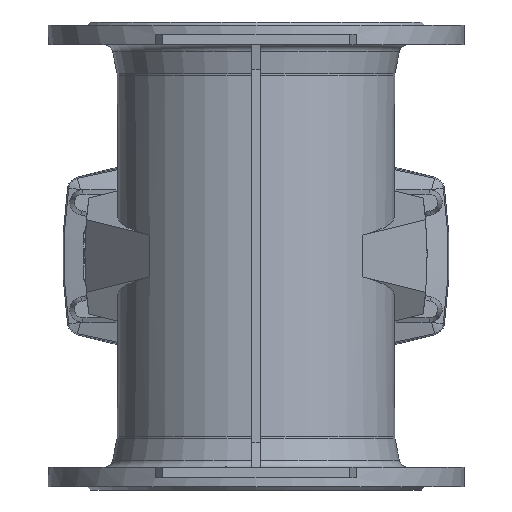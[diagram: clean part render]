
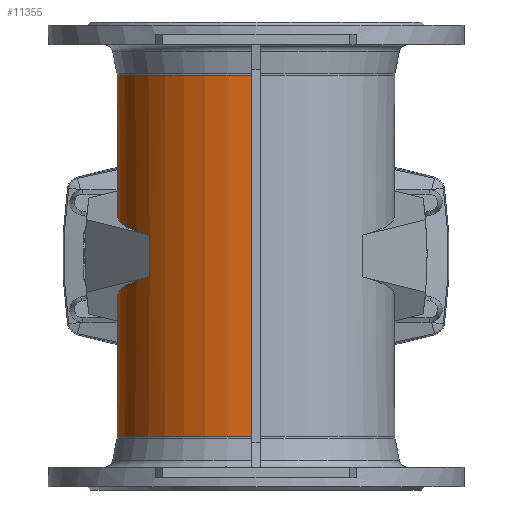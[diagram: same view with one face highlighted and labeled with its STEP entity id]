
A CAD part, front view. The second image highlights one B-rep face of the part: STEP entity #11355.
In plain terms, the highlighted cylindrical face has radius 133.5 mm (diameter 267 mm), a partial arc.
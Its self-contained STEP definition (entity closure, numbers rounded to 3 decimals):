
#959 =( BOUNDED_CURVE ( )  B_SPLINE_CURVE ( 3, ( #8183, #8159, #8158, #8185 ),
 .UNSPECIFIED., .F., .F. ) 
 B_SPLINE_CURVE_WITH_KNOTS ( ( 4, 4 ),
 ( 0.792, 3.027 ),
 .UNSPECIFIED. ) 
 CURVE ( )  GEOMETRIC_REPRESENTATION_ITEM ( )  RATIONAL_B_SPLINE_CURVE ( ( 1., 0.625, 0.625, 1. ) ) 
 REPRESENTATION_ITEM ( '' )  );
#1019 =( BOUNDED_CURVE ( )  B_SPLINE_CURVE ( 3, ( #8087, #8086, #8091, #8092 ),
 .UNSPECIFIED., .F., .F. ) 
 B_SPLINE_CURVE_WITH_KNOTS ( ( 4, 4 ),
 ( 0.792, 3.027 ),
 .UNSPECIFIED. ) 
 CURVE ( )  GEOMETRIC_REPRESENTATION_ITEM ( )  RATIONAL_B_SPLINE_CURVE ( ( 1., 0.625, 0.625, 1. ) ) 
 REPRESENTATION_ITEM ( '' )  );
#3171 = LINE ( 'NONE', #7909, #4397 ) ;
#3485 = ORIENTED_EDGE ( 'NONE', *, *, #5742, .F. ) ;
#3487 = ORIENTED_EDGE ( 'NONE', *, *, #5755, .T. ) ;
#3488 = ORIENTED_EDGE ( 'NONE', *, *, #5710, .T. ) ;
#3489 = ORIENTED_EDGE ( 'NONE', *, *, #5768, .F. ) ;
#3491 = ORIENTED_EDGE ( 'NONE', *, *, #5766, .T. ) ;
#3496 = ORIENTED_EDGE ( 'NONE', *, *, #5695, .F. ) ;
#3499 = ORIENTED_EDGE ( 'NONE', *, *, #5720, .T. ) ;
#3501 = ORIENTED_EDGE ( 'NONE', *, *, #5683, .F. ) ;
#4359 = CIRCLE ( 'NONE', #5403, 133.5 ) ;
#4373 = LINE ( 'NONE', #7851, #4380 ) ;
#4380 = VECTOR ( 'NONE', #7852, 1000. ) ;
#4397 = VECTOR ( 'NONE', #7911, 1000. ) ;
#5403 = AXIS2_PLACEMENT_3D ( 'NONE', #7784, #7785, #7786 ) ;
#5415 = AXIS2_PLACEMENT_3D ( 'NONE', #7950, #7951, #7952 ) ;
#5463 = AXIS2_PLACEMENT_3D ( 'NONE', #10364, #10363, #10356 ) ;
#5683 = EDGE_CURVE ( 'NONE', #8768, #8770, #4359, .T. ) ;
#5695 = EDGE_CURVE ( 'NONE', #8770, #8780, #4373, .T. ) ;
#5710 = EDGE_CURVE ( 'NONE', #8761, #8766, #3171, .T. ) ;
#5720 = EDGE_CURVE ( 'NONE', #8756, #8780, #9400, .T. ) ;
#5742 = EDGE_CURVE ( 'NONE', #8761, #8765, #1019, .T. ) ;
#5755 = EDGE_CURVE ( 'NONE', #8768, #8765, #9438, .T. ) ;
#5766 = EDGE_CURVE ( 'NONE', #8766, #8758, #959, .T. ) ;
#5768 = EDGE_CURVE ( 'NONE', #8756, #8758, #9452, .T. ) ;
#7784 = CARTESIAN_POINT ( 'NONE',  ( 0., 0., 173.935 ) ) ;
#7785 = DIRECTION ( 'NONE',  ( 0., 0., 1. ) ) ;
#7786 = DIRECTION ( 'NONE',  ( 1., 0., 0. ) ) ;
#7851 = CARTESIAN_POINT ( 'NONE',  ( -4.25, -133.432, 703.907 ) ) ;
#7852 = DIRECTION ( 'NONE',  ( 0., 0., -1. ) ) ;
#7909 = CARTESIAN_POINT ( 'NONE',  ( -102.267, -85.812, 703.907 ) ) ;
#7911 = DIRECTION ( 'NONE',  ( 0., 0., -1. ) ) ;
#7950 = CARTESIAN_POINT ( 'NONE',  ( 0., 0., -173.935 ) ) ;
#7951 = DIRECTION ( 'NONE',  ( 0., 0., 1. ) ) ;
#7952 = DIRECTION ( 'NONE',  ( 1., 0., 0. ) ) ;
#8086 = CARTESIAN_POINT ( 'NONE',  ( -184.531, 12.226, 40.272 ) ) ;
#8087 = CARTESIAN_POINT ( 'NONE',  ( -102.267, -85.812, 20.008 ) ) ;
#8091 = CARTESIAN_POINT ( 'NONE',  ( -132.407, 129.11, 67.116 ) ) ;
#8092 = CARTESIAN_POINT ( 'NONE',  ( -4.5, 133.424, 70.36 ) ) ;
#8122 = CARTESIAN_POINT ( 'NONE',  ( -4.5, 133.424, 0. ) ) ;
#8131 = DIRECTION ( 'NONE',  ( 0., 0., -1. ) ) ;
#8158 = CARTESIAN_POINT ( 'NONE',  ( -132.407, 129.11, -67.116 ) ) ;
#8159 = CARTESIAN_POINT ( 'NONE',  ( -184.531, 12.226, -40.272 ) ) ;
#8183 = CARTESIAN_POINT ( 'NONE',  ( -102.267, -85.812, -20.008 ) ) ;
#8185 = CARTESIAN_POINT ( 'NONE',  ( -4.5, 133.424, -70.36 ) ) ;
#8591 = EDGE_LOOP ( 'NONE', ( #3489, #3499, #3496, #3501, #3487, #3485, #3488, #3491 ) ) ;
#8756 = VERTEX_POINT ( 'NONE', #10029 ) ;
#8758 = VERTEX_POINT ( 'NONE', #10031 ) ;
#8761 = VERTEX_POINT ( 'NONE', #10033 ) ;
#8765 = VERTEX_POINT ( 'NONE', #10036 ) ;
#8766 = VERTEX_POINT ( 'NONE', #10037 ) ;
#8768 = VERTEX_POINT ( 'NONE', #10038 ) ;
#8770 = VERTEX_POINT ( 'NONE', #10040 ) ;
#8780 = VERTEX_POINT ( 'NONE', #10049 ) ;
#9400 = CIRCLE ( 'NONE', #5415, 133.5 ) ;
#9438 = LINE ( 'NONE', #8122, #9440 ) ;
#9440 = VECTOR ( 'NONE', #8131, 1000. ) ;
#9451 = VECTOR ( 'NONE', #9975, 1000. ) ;
#9452 = LINE ( 'NONE', #9974, #9451 ) ;
#9516 = FACE_OUTER_BOUND ( 'NONE', #8591, .T. ) ;
#9520 = CYLINDRICAL_SURFACE ( 'NONE', #5463, 133.5 ) ;
#9974 = CARTESIAN_POINT ( 'NONE',  ( -4.5, 133.424, 0. ) ) ;
#9975 = DIRECTION ( 'NONE',  ( 0., 0., 1. ) ) ;
#10029 = CARTESIAN_POINT ( 'NONE',  ( -4.5, 133.424, -173.935 ) ) ;
#10031 = CARTESIAN_POINT ( 'NONE',  ( -4.5, 133.424, -70.36 ) ) ;
#10033 = CARTESIAN_POINT ( 'NONE',  ( -102.267, -85.812, 20.008 ) ) ;
#10036 = CARTESIAN_POINT ( 'NONE',  ( -4.5, 133.424, 70.36 ) ) ;
#10037 = CARTESIAN_POINT ( 'NONE',  ( -102.267, -85.812, -20.008 ) ) ;
#10038 = CARTESIAN_POINT ( 'NONE',  ( -4.5, 133.424, 173.935 ) ) ;
#10040 = CARTESIAN_POINT ( 'NONE',  ( -4.25, -133.432, 173.935 ) ) ;
#10049 = CARTESIAN_POINT ( 'NONE',  ( -4.25, -133.432, -173.935 ) ) ;
#10356 = DIRECTION ( 'NONE',  ( -1., 0., 0. ) ) ;
#10363 = DIRECTION ( 'NONE',  ( 0., 0., -1. ) ) ;
#10364 = CARTESIAN_POINT ( 'NONE',  ( 0., 0., 703.907 ) ) ;
#11355 = ADVANCED_FACE ( 'NONE', ( #9516 ), #9520, .T. ) ;
